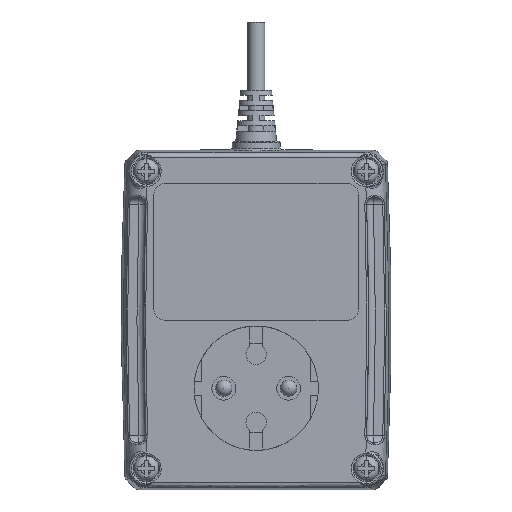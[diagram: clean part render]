
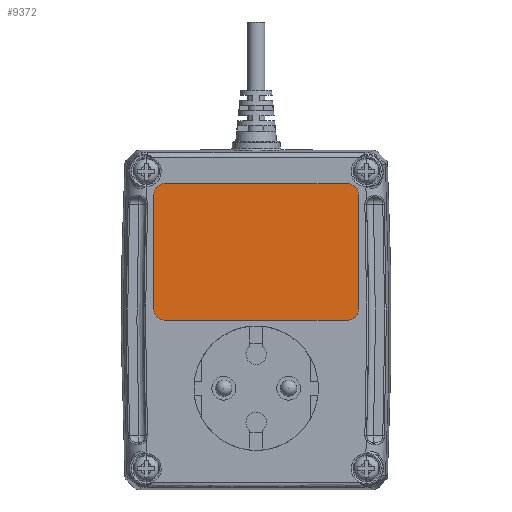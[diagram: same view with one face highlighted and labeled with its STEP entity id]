
A CAD part, front view. The second image highlights one B-rep face of the part: STEP entity #9372.
In plain terms, the highlighted planar face has unit normal (0, -1, 0).
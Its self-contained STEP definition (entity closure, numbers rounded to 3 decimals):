
#4130 = AXIS2_PLACEMENT_3D ( 'NONE', #32025, #32036, #32038 ) ;
#8672 = EDGE_LOOP ( 'NONE', ( #44342, #44343, #44345, #44346, #44347, #44348, #44350, #44351 ) ) ;
#9372 = ADVANCED_FACE ( 'NONE', ( #39134 ), #32026, .F. ) ;
#12560 = EDGE_CURVE ( 'NONE', #17302, #17434, #39284, .T. ) ;
#12565 = EDGE_CURVE ( 'NONE', #17224, #17302, #39289, .T. ) ;
#12611 = EDGE_CURVE ( 'NONE', #17220, #17224, #39342, .T. ) ;
#12630 = EDGE_CURVE ( 'NONE', #52222, #17220, #39359, .T. ) ;
#12637 = EDGE_CURVE ( 'NONE', #17314, #52222, #39374, .T. ) ;
#12648 = EDGE_CURVE ( 'NONE', #17434, #17308, #39380, .T. ) ;
#12712 = EDGE_CURVE ( 'NONE', #17307, #17314, #39450, .T. ) ;
#12722 = EDGE_CURVE ( 'NONE', #17308, #17307, #39466, .T. ) ;
#17220 = VERTEX_POINT ( 'NONE', #43566 ) ;
#17224 = VERTEX_POINT ( 'NONE', #43570 ) ;
#17302 = VERTEX_POINT ( 'NONE', #43613 ) ;
#17307 = VERTEX_POINT ( 'NONE', #43618 ) ;
#17308 = VERTEX_POINT ( 'NONE', #43619 ) ;
#17314 = VERTEX_POINT ( 'NONE', #43625 ) ;
#17434 = VERTEX_POINT ( 'NONE', #43717 ) ;
#17870 = CARTESIAN_POINT ( 'NONE',  ( -27., -16.1, 0. ) ) ;
#17871 = DIRECTION ( 'NONE',  ( 1., 0., 0. ) ) ;
#17885 = CARTESIAN_POINT ( 'NONE',  ( -27., -16.1, 3. ) ) ;
#17923 = DIRECTION ( 'NONE',  ( 0., -1., 0. ) ) ;
#17924 = DIRECTION ( 'NONE',  ( 0., 0., -1. ) ) ;
#20347 = CARTESIAN_POINT ( 'NONE',  ( -27., -16.1, 37. ) ) ;
#20348 = DIRECTION ( 'NONE',  ( 0., -1., 0. ) ) ;
#20349 = DIRECTION ( 'NONE',  ( 0., 0., -1. ) ) ;
#20357 = CARTESIAN_POINT ( 'NONE',  ( -27., -16.1, 40. ) ) ;
#20364 = DIRECTION ( 'NONE',  ( -1., 0., 0. ) ) ;
#20524 = CARTESIAN_POINT ( 'NONE',  ( 27., -16.1, 37. ) ) ;
#20531 = DIRECTION ( 'NONE',  ( 0., -1., 0. ) ) ;
#20532 = DIRECTION ( 'NONE',  ( 0., 0., 1. ) ) ;
#20586 = CARTESIAN_POINT ( 'NONE',  ( 30., -16.1, 37. ) ) ;
#20587 = DIRECTION ( 'NONE',  ( 0., 0., 1. ) ) ;
#20622 = CARTESIAN_POINT ( 'NONE',  ( 27., -16.1, 3. ) ) ;
#20628 = DIRECTION ( 'NONE',  ( 0., -1., 0. ) ) ;
#20629 = DIRECTION ( 'NONE',  ( 0., 0., -1. ) ) ;
#20691 = CARTESIAN_POINT ( 'NONE',  ( -30., -16.1, 37. ) ) ;
#20692 = DIRECTION ( 'NONE',  ( 0., 0., -1. ) ) ;
#23729 = CARTESIAN_POINT ( 'NONE',  ( 30., -16.1, 3. ) ) ;
#32025 = CARTESIAN_POINT ( 'NONE',  ( 27., -16.1, 37. ) ) ;
#32026 = PLANE ( 'NONE',  #4130 ) ;
#32036 = DIRECTION ( 'NONE',  ( 0., 1., 0. ) ) ;
#32038 = DIRECTION ( 'NONE',  ( 0., 0., 1. ) ) ;
#39134 = FACE_OUTER_BOUND ( 'NONE', #8672, .T. ) ;
#39279 = VECTOR ( 'NONE', #20364, 1000. ) ;
#39284 = CIRCLE ( 'NONE', #45953, 3. ) ;
#39289 = LINE ( 'NONE', #20357, #39279 ) ;
#39342 = CIRCLE ( 'NONE', #45986, 3. ) ;
#39357 = VECTOR ( 'NONE', #20587, 1000. ) ;
#39359 = LINE ( 'NONE', #20586, #39357 ) ;
#39374 = CIRCLE ( 'NONE', #46006, 3. ) ;
#39379 = VECTOR ( 'NONE', #20692, 1000. ) ;
#39380 = LINE ( 'NONE', #20691, #39379 ) ;
#39450 = LINE ( 'NONE', #17870, #39453 ) ;
#39453 = VECTOR ( 'NONE', #17871, 1000. ) ;
#39466 = CIRCLE ( 'NONE', #46061, 3. ) ;
#43566 = CARTESIAN_POINT ( 'NONE',  ( 30., -16.1, 37. ) ) ;
#43570 = CARTESIAN_POINT ( 'NONE',  ( 27., -16.1, 40. ) ) ;
#43613 = CARTESIAN_POINT ( 'NONE',  ( -27., -16.1, 40. ) ) ;
#43618 = CARTESIAN_POINT ( 'NONE',  ( -27., -16.1, 0. ) ) ;
#43619 = CARTESIAN_POINT ( 'NONE',  ( -30., -16.1, 3. ) ) ;
#43625 = CARTESIAN_POINT ( 'NONE',  ( 27., -16.1, 0. ) ) ;
#43717 = CARTESIAN_POINT ( 'NONE',  ( -30., -16.1, 37. ) ) ;
#44342 = ORIENTED_EDGE ( 'NONE', *, *, #12611, .T. ) ;
#44343 = ORIENTED_EDGE ( 'NONE', *, *, #12565, .T. ) ;
#44345 = ORIENTED_EDGE ( 'NONE', *, *, #12560, .T. ) ;
#44346 = ORIENTED_EDGE ( 'NONE', *, *, #12648, .T. ) ;
#44347 = ORIENTED_EDGE ( 'NONE', *, *, #12722, .T. ) ;
#44348 = ORIENTED_EDGE ( 'NONE', *, *, #12712, .T. ) ;
#44350 = ORIENTED_EDGE ( 'NONE', *, *, #12637, .T. ) ;
#44351 = ORIENTED_EDGE ( 'NONE', *, *, #12630, .T. ) ;
#45953 = AXIS2_PLACEMENT_3D ( 'NONE', #20347, #20348, #20349 ) ;
#45986 = AXIS2_PLACEMENT_3D ( 'NONE', #20524, #20531, #20532 ) ;
#46006 = AXIS2_PLACEMENT_3D ( 'NONE', #20622, #20628, #20629 ) ;
#46061 = AXIS2_PLACEMENT_3D ( 'NONE', #17885, #17923, #17924 ) ;
#52222 = VERTEX_POINT ( 'NONE', #23729 ) ;
